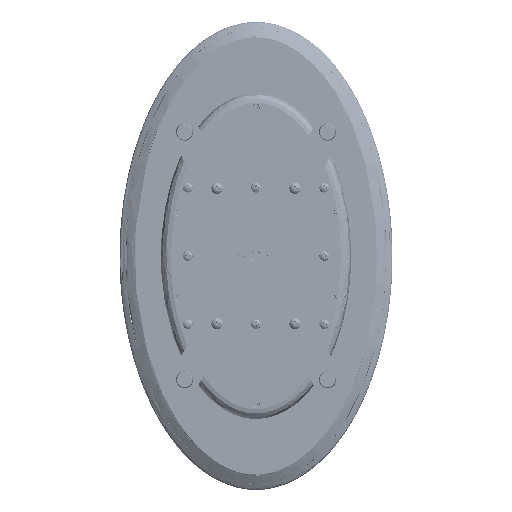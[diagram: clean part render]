
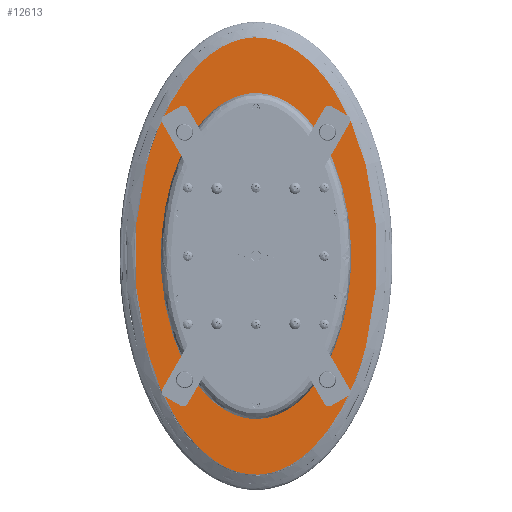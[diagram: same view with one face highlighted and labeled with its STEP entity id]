
A CAD part, front view. The second image highlights one B-rep face of the part: STEP entity #12613.
In plain terms, the highlighted planar face has unit normal (0, -1, 0).
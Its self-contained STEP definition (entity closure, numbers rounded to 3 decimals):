
#733=B_SPLINE_CURVE_WITH_KNOTS('',3,(#35515,#35516,#35517,#35518,#35519,
#35520),.UNSPECIFIED.,.F.,.F.,(4,1,1,4),(-1.159,-0.886,
-0.704,-0.522),.UNSPECIFIED.);
#735=B_SPLINE_CURVE_WITH_KNOTS('',3,(#35565,#35566,#35567,#35568,#35569,
#35570,#35571),.UNSPECIFIED.,.F.,.F.,(4,1,1,1,4),(-1.982,-1.747,
-1.63,-1.394,-1.159),.UNSPECIFIED.);
#737=B_SPLINE_CURVE_WITH_KNOTS('',3,(#35616,#35617,#35618,#35619,#35620,
#35621,#35622),.UNSPECIFIED.,.F.,.F.,(4,1,1,1,4),(0.525,0.706,
0.797,0.978,1.159),.UNSPECIFIED.);
#739=B_SPLINE_CURVE_WITH_KNOTS('',3,(#35688,#35689,#35690,#35691,#35692,
#35693,#35694,#35695,#35696,#35697),.UNSPECIFIED.,.F.,.F.,(4,1,1,1,1,1,
1,4),(-0.522,-0.372,-0.223,-0.073,
0.077,0.226,0.376,0.525),
 .UNSPECIFIED.);
#741=B_SPLINE_CURVE_WITH_KNOTS('',3,(#35735,#35736,#35737,#35738,#35739,
#35740),.UNSPECIFIED.,.F.,.F.,(4,1,1,4),(-1.159,-0.886,
-0.704,-0.522),.UNSPECIFIED.);
#743=B_SPLINE_CURVE_WITH_KNOTS('',3,(#35785,#35786,#35787,#35788,#35789,
#35790,#35791),.UNSPECIFIED.,.F.,.F.,(4,1,1,1,4),(-1.982,-1.747,
-1.63,-1.394,-1.159),.UNSPECIFIED.);
#745=B_SPLINE_CURVE_WITH_KNOTS('',3,(#35836,#35837,#35838,#35839,#35840,
#35841,#35842),.UNSPECIFIED.,.F.,.F.,(4,1,1,1,4),(0.525,0.706,
0.797,0.978,1.159),.UNSPECIFIED.);
#747=B_SPLINE_CURVE_WITH_KNOTS('',3,(#35906,#35907,#35908,#35909,#35910,
#35911,#35912,#35913,#35914,#35915),.UNSPECIFIED.,.F.,.F.,(4,1,1,1,1,1,
1,4),(-0.522,-0.372,-0.223,-0.073,
0.077,0.226,0.376,0.525),
 .UNSPECIFIED.);
#2573=FACE_OUTER_BOUND('',#3427,.T.);
#3427=EDGE_LOOP('',(#10517,#10518,#10519,#10520,#10521,#10522,#10523,#10524));
#5969=VERTEX_POINT('',#35512);
#5970=VERTEX_POINT('',#35514);
#5972=VERTEX_POINT('',#35564);
#5974=VERTEX_POINT('',#35615);
#5976=VERTEX_POINT('',#35687);
#5978=VERTEX_POINT('',#35734);
#5980=VERTEX_POINT('',#35784);
#5982=VERTEX_POINT('',#35835);
#7542=EDGE_CURVE('',#5970,#5969,#733,.T.);
#7545=EDGE_CURVE('',#5972,#5970,#735,.T.);
#7548=EDGE_CURVE('',#5974,#5972,#737,.T.);
#7551=EDGE_CURVE('',#5976,#5974,#739,.T.);
#7554=EDGE_CURVE('',#5978,#5976,#741,.T.);
#7557=EDGE_CURVE('',#5980,#5978,#743,.T.);
#7560=EDGE_CURVE('',#5982,#5980,#745,.T.);
#7563=EDGE_CURVE('',#5969,#5982,#747,.T.);
#10517=ORIENTED_EDGE('',*,*,#7554,.T.);
#10518=ORIENTED_EDGE('',*,*,#7551,.T.);
#10519=ORIENTED_EDGE('',*,*,#7548,.T.);
#10520=ORIENTED_EDGE('',*,*,#7545,.T.);
#10521=ORIENTED_EDGE('',*,*,#7542,.T.);
#10522=ORIENTED_EDGE('',*,*,#7563,.T.);
#10523=ORIENTED_EDGE('',*,*,#7560,.T.);
#10524=ORIENTED_EDGE('',*,*,#7557,.T.);
#12035=PLANE('',#14570);
#12613=ADVANCED_FACE('',(#2573),#12035,.F.);
#14570=AXIS2_PLACEMENT_3D('',#35917,#17190,#17191);
#17190=DIRECTION('center_axis',(0.,1.,0.));
#17191=DIRECTION('ref_axis',(0.,0.,1.));
#35512=CARTESIAN_POINT('',(2.848,0.,9.907));
#35514=CARTESIAN_POINT('',(5.629,0.,4.674));
#35515=CARTESIAN_POINT('Ctrl Pts',(5.629,0.,4.674));
#35516=CARTESIAN_POINT('Ctrl Pts',(5.376,0.,5.641));
#35517=CARTESIAN_POINT('Ctrl Pts',(4.823,0.,
7.143));
#35518=CARTESIAN_POINT('Ctrl Pts',(3.821,0.,
8.841));
#35519=CARTESIAN_POINT('Ctrl Pts',(3.178,0.,
9.591));
#35520=CARTESIAN_POINT('Ctrl Pts',(2.848,0.,9.907));
#35564=CARTESIAN_POINT('',(5.629,0.,-4.674));
#35565=CARTESIAN_POINT('Ctrl Pts',(5.629,0.,-4.674));
#35566=CARTESIAN_POINT('Ctrl Pts',(5.847,0.,-3.841));
#35567=CARTESIAN_POINT('Ctrl Pts',(6.088,0.,
-2.519));
#35568=CARTESIAN_POINT('Ctrl Pts',(6.25,0.,
-0.234));
#35569=CARTESIAN_POINT('Ctrl Pts',(6.168,0.,
2.078));
#35570=CARTESIAN_POINT('Ctrl Pts',(5.847,0.,3.841));
#35571=CARTESIAN_POINT('Ctrl Pts',(5.629,0.,4.674));
#35615=CARTESIAN_POINT('',(2.867,0.,-9.889));
#35616=CARTESIAN_POINT('Ctrl Pts',(2.867,0.,-9.889));
#35617=CARTESIAN_POINT('Ctrl Pts',(3.195,0.,-9.573));
#35618=CARTESIAN_POINT('Ctrl Pts',(3.674,0.,
-9.01));
#35619=CARTESIAN_POINT('Ctrl Pts',(4.407,0.,
-7.869));
#35620=CARTESIAN_POINT('Ctrl Pts',(5.057,0.,
-6.54));
#35621=CARTESIAN_POINT('Ctrl Pts',(5.461,0.,-5.315));
#35622=CARTESIAN_POINT('Ctrl Pts',(5.629,0.,-4.674));
#35687=CARTESIAN_POINT('',(-2.848,0.,-9.907));
#35688=CARTESIAN_POINT('Ctrl Pts',(-2.848,0.,-9.907));
#35689=CARTESIAN_POINT('Ctrl Pts',(-2.578,0.,-10.167));
#35690=CARTESIAN_POINT('Ctrl Pts',(-2.026,0.,
-10.605));
#35691=CARTESIAN_POINT('Ctrl Pts',(-1.199,0.,
-11.024));
#35692=CARTESIAN_POINT('Ctrl Pts',(-0.39,0.,
-11.223));
#35693=CARTESIAN_POINT('Ctrl Pts',(0.408,0.,
-11.221));
#35694=CARTESIAN_POINT('Ctrl Pts',(1.218,0.,
-11.017));
#35695=CARTESIAN_POINT('Ctrl Pts',(2.045,0.,
-10.593));
#35696=CARTESIAN_POINT('Ctrl Pts',(2.597,0.,
-10.15));
#35697=CARTESIAN_POINT('Ctrl Pts',(2.867,0.,-9.889));
#35734=CARTESIAN_POINT('',(-5.629,0.,-4.674));
#35735=CARTESIAN_POINT('Ctrl Pts',(-5.629,0.,
-4.674));
#35736=CARTESIAN_POINT('Ctrl Pts',(-5.376,0.,
-5.641));
#35737=CARTESIAN_POINT('Ctrl Pts',(-4.823,0.,
-7.143));
#35738=CARTESIAN_POINT('Ctrl Pts',(-3.821,0.,
-8.841));
#35739=CARTESIAN_POINT('Ctrl Pts',(-3.178,0.,
-9.591));
#35740=CARTESIAN_POINT('Ctrl Pts',(-2.848,0.,
-9.907));
#35784=CARTESIAN_POINT('',(-5.629,0.,4.674));
#35785=CARTESIAN_POINT('Ctrl Pts',(-5.629,0.,
4.674));
#35786=CARTESIAN_POINT('Ctrl Pts',(-5.847,0.,
3.841));
#35787=CARTESIAN_POINT('Ctrl Pts',(-6.088,0.,
2.519));
#35788=CARTESIAN_POINT('Ctrl Pts',(-6.25,0.,
0.234));
#35789=CARTESIAN_POINT('Ctrl Pts',(-6.168,0.,
-2.078));
#35790=CARTESIAN_POINT('Ctrl Pts',(-5.847,0.,
-3.841));
#35791=CARTESIAN_POINT('Ctrl Pts',(-5.629,0.,
-4.674));
#35835=CARTESIAN_POINT('',(-2.867,0.,9.889));
#35836=CARTESIAN_POINT('Ctrl Pts',(-2.867,0.,9.889));
#35837=CARTESIAN_POINT('Ctrl Pts',(-3.195,0.,9.573));
#35838=CARTESIAN_POINT('Ctrl Pts',(-3.674,0.,
9.01));
#35839=CARTESIAN_POINT('Ctrl Pts',(-4.407,0.,
7.869));
#35840=CARTESIAN_POINT('Ctrl Pts',(-5.057,0.,
6.54));
#35841=CARTESIAN_POINT('Ctrl Pts',(-5.461,0.,5.315));
#35842=CARTESIAN_POINT('Ctrl Pts',(-5.629,0.,4.674));
#35906=CARTESIAN_POINT('Ctrl Pts',(2.848,0.,
9.907));
#35907=CARTESIAN_POINT('Ctrl Pts',(2.578,0.,
10.167));
#35908=CARTESIAN_POINT('Ctrl Pts',(2.026,0.,
10.605));
#35909=CARTESIAN_POINT('Ctrl Pts',(1.199,0.,
11.024));
#35910=CARTESIAN_POINT('Ctrl Pts',(0.39,0.,
11.223));
#35911=CARTESIAN_POINT('Ctrl Pts',(-0.408,0.,
11.221));
#35912=CARTESIAN_POINT('Ctrl Pts',(-1.218,0.,
11.017));
#35913=CARTESIAN_POINT('Ctrl Pts',(-2.045,0.,
10.593));
#35914=CARTESIAN_POINT('Ctrl Pts',(-2.597,0.,
10.15));
#35915=CARTESIAN_POINT('Ctrl Pts',(-2.867,0.,
9.889));
#35917=CARTESIAN_POINT('Origin',(0.001,0.,0.001));
